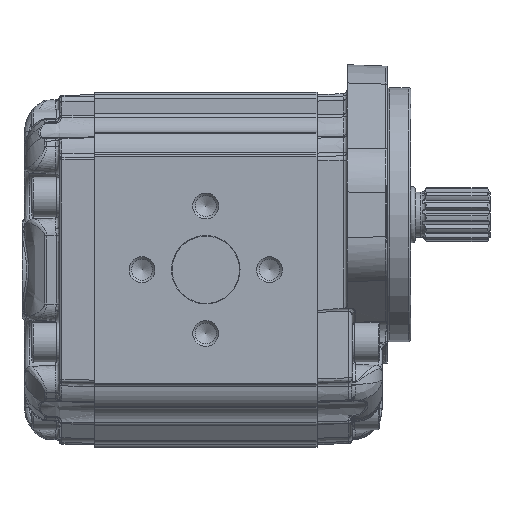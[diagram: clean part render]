
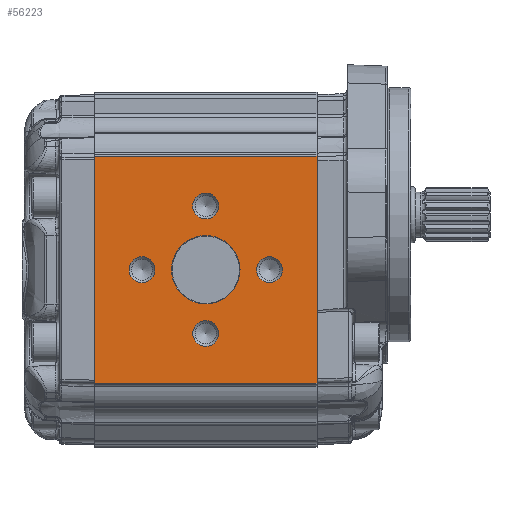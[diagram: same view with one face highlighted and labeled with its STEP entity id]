
A CAD part, left-side view. The second image highlights one B-rep face of the part: STEP entity #56223.
In plain terms, the highlighted planar face has unit normal (-1, 0, 0).
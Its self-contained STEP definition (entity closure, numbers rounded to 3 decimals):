
#6462=LINE('',#106768,#8096);
#6473=LINE('',#106853,#8107);
#6511=LINE('',#106961,#8145);
#6512=LINE('',#106962,#8146);
#8096=VECTOR('',#62852,1000.);
#8107=VECTOR('',#62927,1000.);
#8145=VECTOR('',#63053,1000.);
#8146=VECTOR('',#63054,1000.);
#14088=ORIENTED_EDGE('',*,*,#23699,.T.);
#14089=ORIENTED_EDGE('',*,*,#23700,.T.);
#14090=ORIENTED_EDGE('',*,*,#23701,.T.);
#14091=ORIENTED_EDGE('',*,*,#23702,.T.);
#14092=ORIENTED_EDGE('',*,*,#23703,.T.);
#14093=ORIENTED_EDGE('',*,*,#23603,.F.);
#14094=ORIENTED_EDGE('',*,*,#23704,.T.);
#14095=ORIENTED_EDGE('',*,*,#23645,.F.);
#14096=ORIENTED_EDGE('',*,*,#23705,.T.);
#23603=EDGE_CURVE('',#28737,#28738,#6462,.T.);
#23645=EDGE_CURVE('',#28779,#28780,#6473,.T.);
#23699=EDGE_CURVE('',#28801,#28801,#31582,.F.);
#23700=EDGE_CURVE('',#28802,#28802,#31583,.F.);
#23701=EDGE_CURVE('',#28803,#28803,#31584,.F.);
#23702=EDGE_CURVE('',#28804,#28804,#31585,.F.);
#23703=EDGE_CURVE('',#28805,#28805,#31586,.F.);
#23704=EDGE_CURVE('',#28737,#28780,#6511,.F.);
#23705=EDGE_CURVE('',#28779,#28738,#6512,.F.);
#28737=VERTEX_POINT('',#106767);
#28738=VERTEX_POINT('',#106769);
#28779=VERTEX_POINT('',#106852);
#28780=VERTEX_POINT('',#106854);
#28801=VERTEX_POINT('',#106952);
#28802=VERTEX_POINT('',#106954);
#28803=VERTEX_POINT('',#106956);
#28804=VERTEX_POINT('',#106958);
#28805=VERTEX_POINT('',#106960);
#31582=CIRCLE('',#58885,5.188);
#31583=CIRCLE('',#58886,5.188);
#31584=CIRCLE('',#58887,5.188);
#31585=CIRCLE('',#58888,5.188);
#31586=CIRCLE('',#58889,13.7);
#32925=EDGE_LOOP('',(#14088));
#32926=EDGE_LOOP('',(#14089));
#32927=EDGE_LOOP('',(#14090));
#32928=EDGE_LOOP('',(#14091));
#32929=EDGE_LOOP('',(#14092));
#32930=EDGE_LOOP('',(#14093,#14094,#14095,#14096));
#35658=FACE_BOUND('',#32925,.T.);
#35659=FACE_BOUND('',#32926,.T.);
#35660=FACE_BOUND('',#32927,.T.);
#35661=FACE_BOUND('',#32928,.T.);
#35662=FACE_BOUND('',#32929,.T.);
#35663=FACE_BOUND('',#32930,.T.);
#37474=PLANE('',#58884);
#56223=ADVANCED_FACE('',(#35658,#35659,#35660,#35661,#35662,#35663),#37474,
 .T.);
#58884=AXIS2_PLACEMENT_3D('',#106950,#63041,#63042);
#58885=AXIS2_PLACEMENT_3D('',#106951,#63043,#63044);
#58886=AXIS2_PLACEMENT_3D('',#106953,#63045,#63046);
#58887=AXIS2_PLACEMENT_3D('',#106955,#63047,#63048);
#58888=AXIS2_PLACEMENT_3D('',#106957,#63049,#63050);
#58889=AXIS2_PLACEMENT_3D('',#106959,#63051,#63052);
#62852=DIRECTION('',(0.,0.,1.));
#62927=DIRECTION('',(0.,0.,-1.));
#63041=DIRECTION('',(-1.,0.,0.));
#63042=DIRECTION('',(0.,0.,-1.));
#63043=DIRECTION('',(-1.,0.,0.));
#63044=DIRECTION('',(0.,0.,-1.));
#63045=DIRECTION('',(-1.,0.,0.));
#63046=DIRECTION('',(0.,0.,-1.));
#63047=DIRECTION('',(-1.,0.,0.));
#63048=DIRECTION('',(0.,0.,-1.));
#63049=DIRECTION('',(-1.,0.,0.));
#63050=DIRECTION('',(0.,0.,-1.));
#63051=DIRECTION('',(-1.,0.,0.));
#63052=DIRECTION('',(0.,0.,-1.));
#63053=DIRECTION('',(0.,1.,0.));
#63054=DIRECTION('',(0.,-1.,0.));
#106767=CARTESIAN_POINT('',(-57.5,89.,-45.5));
#106768=CARTESIAN_POINT('',(-57.5,89.,-84.819));
#106769=CARTESIAN_POINT('',(-57.5,89.,45.5));
#106852=CARTESIAN_POINT('',(-57.5,0.,45.5));
#106853=CARTESIAN_POINT('',(-57.5,0.,-44.978));
#106854=CARTESIAN_POINT('',(-57.5,0.,-45.5));
#106950=CARTESIAN_POINT('',(-57.5,-140.475,-84.819));
#106951=CARTESIAN_POINT('',(-57.5,44.5,25.5));
#106952=CARTESIAN_POINT('',(-57.5,44.5,20.312));
#106953=CARTESIAN_POINT('',(-57.5,70.,0.));
#106954=CARTESIAN_POINT('',(-57.5,70.,-5.188));
#106955=CARTESIAN_POINT('',(-57.5,44.5,-25.5));
#106956=CARTESIAN_POINT('',(-57.5,44.5,-30.688));
#106957=CARTESIAN_POINT('',(-57.5,19.,0.));
#106958=CARTESIAN_POINT('',(-57.5,19.,-5.188));
#106959=CARTESIAN_POINT('',(-57.5,44.5,0.));
#106960=CARTESIAN_POINT('',(-57.5,44.5,-13.7));
#106961=CARTESIAN_POINT('',(-57.5,-140.475,-45.5));
#106962=CARTESIAN_POINT('',(-57.5,-140.475,45.5));
